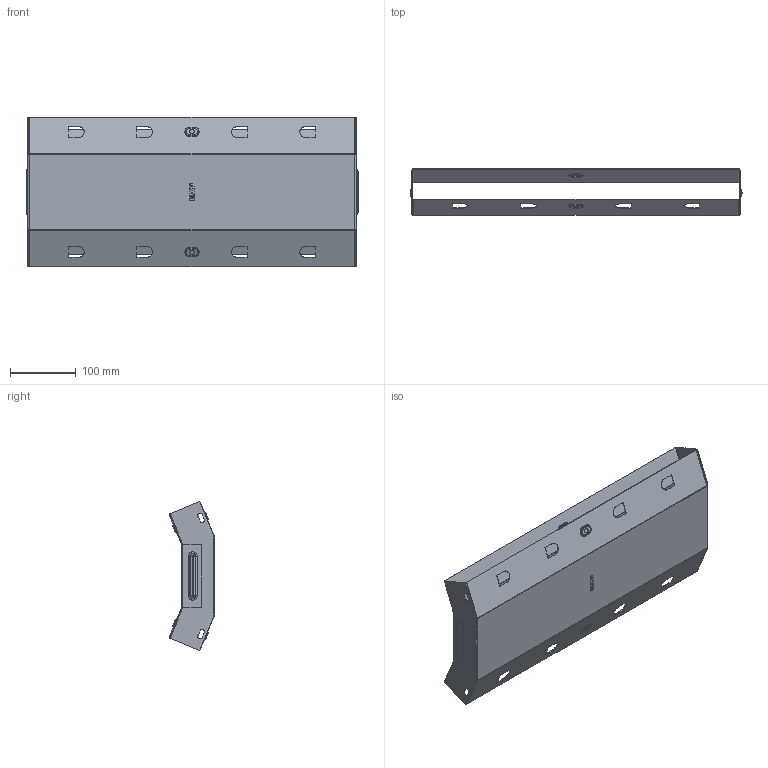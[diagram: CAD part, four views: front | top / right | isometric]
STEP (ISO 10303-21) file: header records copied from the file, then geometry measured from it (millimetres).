
FILE_DESCRIPTION (( 'STEP AP214' ), '1' );
FILE_NAME ('vi4550500_捘.STEP', '2019-06-10T08:32:12', ( '砐錪賧瘔蠈錪 Windows' ), ( '' ), 'SwSTEP 2.0', 'SolidWorks 2018', '' );
FILE_SCHEMA (( 'AUTOMOTIVE_DESIGN' ));
Length unit declared in the file: millimetre
Products named in the file (1): vi4550500_捘
Bounding box: 505.6 x 69.93 x 227.28 mm (x, y, z)
Volume: 190797.8 mm3; surface area: 480535.1 mm2
Topology: 2 solids, 2 shells, 448 faces, 1152 edges, 736 vertices
Faces by surface type: plane 246, cylinder 120, torus 64, bspline 18
Entity records: 14524 total; most frequent: CARTESIAN_POINT 3356, DIRECTION 2314, ORIENTED_EDGE 2304, EDGE_CURVE 1152, LINE 780, VECTOR 780, AXIS2_PLACEMENT_3D 767, VERTEX_POINT 736
